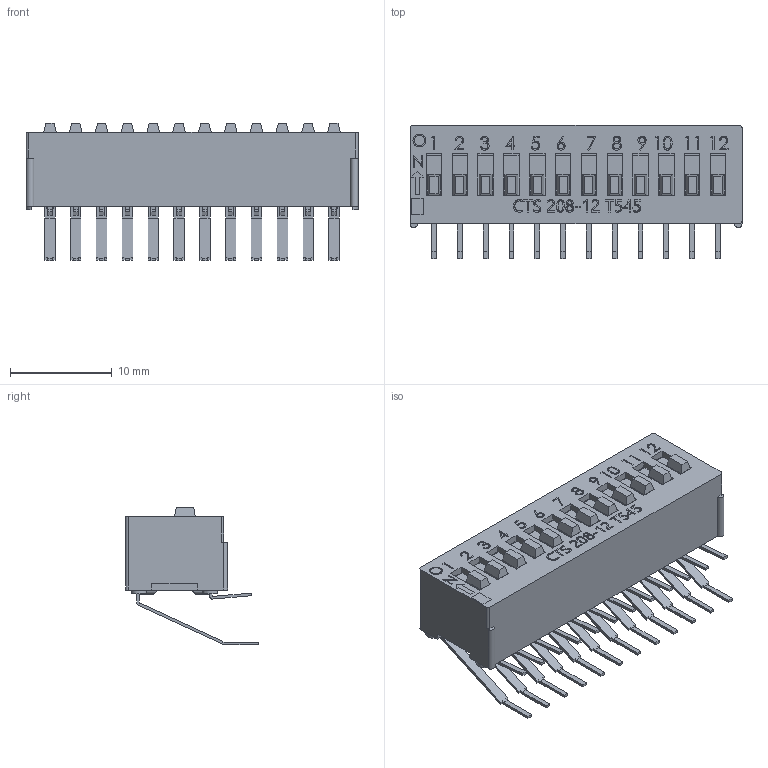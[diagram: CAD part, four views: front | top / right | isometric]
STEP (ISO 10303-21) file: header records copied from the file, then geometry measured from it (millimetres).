
FILE_DESCRIPTION (( 'STEP AP214' ), '1' );
FILE_NAME ('208-12RA.STEP', '2019-05-28T03:14:23', ( '' ), ( '' ), 'SwSTEP 2.0', 'SolidWorks 2019', '' );
FILE_SCHEMA (( 'AUTOMOTIVE_DESIGN' ));
Length unit declared in the file: millimetre
Products named in the file (4): 206-56-014-35-01; 208-12RA; 206012RAS- Base assly; 208-12RA cover
Assembly tree (14 placements, depth 2):
  208-12RA
    208-12RA cover
    206-56-014-35-01  x12
    206012RAS- Base assly
Bounding box: 32.66 x 13.08 x 13.5 mm (x, y, z)
Volume: 1413.8 mm3; surface area: 4538.6 mm2
Topology: 14 solids, 14 shells, 1227 faces, 3298 edges, 2178 vertices
Faces by surface type: plane 901, bspline 166, cylinder 160
Entity records: 35276 total; most frequent: CARTESIAN_POINT 15139, ORIENTED_EDGE 4374, DIRECTION 3321, EDGE_CURVE 2187, VECTOR 1701, LINE 1701, VERTEX_POINT 1452, EDGE_LOOP 903
